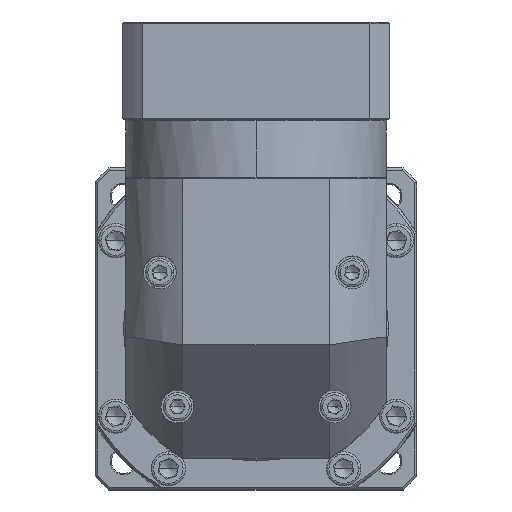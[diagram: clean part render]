
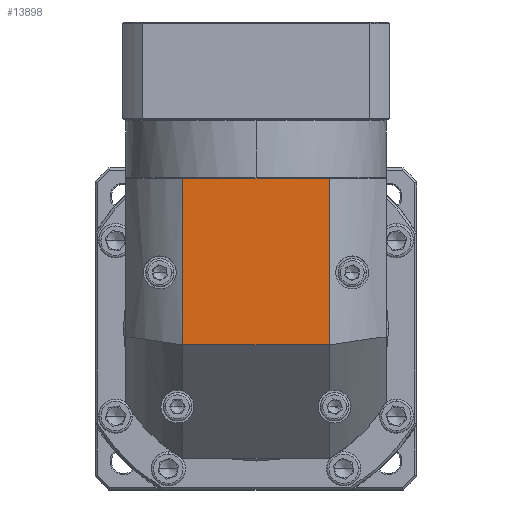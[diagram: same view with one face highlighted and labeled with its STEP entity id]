
A CAD part, top view. The second image highlights one B-rep face of the part: STEP entity #13898.
In plain terms, the highlighted planar face has unit normal (0, 0, 1).
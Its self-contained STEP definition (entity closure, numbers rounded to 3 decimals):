
#2258 = CARTESIAN_POINT ( 'NONE',  ( -172.777, 137.457, 44.397 ) ) ;
#2538 = CARTESIAN_POINT ( 'NONE',  ( -107.977, 14.057, 44.397 ) ) ;
#4253 = ORIENTED_EDGE ( 'NONE', *, *, #90603, .F. ) ;
#7494 = DIRECTION ( 'NONE',  ( -1., 0., 0. ) ) ;
#13898 = ADVANCED_FACE ( 'NONE', ( #18782 ), #24021, .F. ) ;
#17771 = VERTEX_POINT ( 'NONE', #83333 ) ;
#18782 = FACE_OUTER_BOUND ( 'NONE', #137692, .T. ) ;
#19089 = LINE ( 'NONE', #50624, #37771 ) ;
#22647 = VERTEX_POINT ( 'NONE', #35319 ) ;
#24021 = PLANE ( 'NONE',  #53450 ) ;
#25705 = CARTESIAN_POINT ( 'NONE',  ( -197.877, 137.457, 44.397 ) ) ;
#26663 = VECTOR ( 'NONE', #79760, 1000. ) ;
#35319 = CARTESIAN_POINT ( 'NONE',  ( -107.977, 137.457, 44.397 ) ) ;
#35444 = DIRECTION ( 'NONE',  ( 0., 0., -1. ) ) ;
#35740 = DIRECTION ( 'NONE',  ( 0., -1., 0. ) ) ;
#37771 = VECTOR ( 'NONE', #7494, 1000. ) ;
#38708 = EDGE_CURVE ( 'NONE', #99897, #22647, #131849, .T. ) ;
#41820 = DIRECTION ( 'NONE',  ( 0., 1., 0. ) ) ;
#45000 = ORIENTED_EDGE ( 'NONE', *, *, #57719, .F. ) ;
#50624 = CARTESIAN_POINT ( 'NONE',  ( -197.877, 64.057, 44.397 ) ) ;
#53450 = AXIS2_PLACEMENT_3D ( 'NONE', #99843, #35444, #130738 ) ;
#54611 = ORIENTED_EDGE ( 'NONE', *, *, #38708, .F. ) ;
#57719 = EDGE_CURVE ( 'NONE', #22647, #129113, #73058, .T. ) ;
#73058 = LINE ( 'NONE', #2538, #103611 ) ;
#79760 = DIRECTION ( 'NONE',  ( 1., 0., 0. ) ) ;
#81824 = ORIENTED_EDGE ( 'NONE', *, *, #99330, .F. ) ;
#83333 = CARTESIAN_POINT ( 'NONE',  ( -172.777, 64.057, 44.397 ) ) ;
#84884 = CARTESIAN_POINT ( 'NONE',  ( -172.777, 14.057, 44.397 ) ) ;
#90603 = EDGE_CURVE ( 'NONE', #129113, #17771, #19089, .T. ) ;
#99330 = EDGE_CURVE ( 'NONE', #17771, #99897, #99864, .T. ) ;
#99843 = CARTESIAN_POINT ( 'NONE',  ( -140.377, 71.557, 44.397 ) ) ;
#99864 = LINE ( 'NONE', #84884, #126970 ) ;
#99897 = VERTEX_POINT ( 'NONE', #2258 ) ;
#103521 = CARTESIAN_POINT ( 'NONE',  ( -107.977, 64.057, 44.397 ) ) ;
#103611 = VECTOR ( 'NONE', #35740, 1000. ) ;
#126970 = VECTOR ( 'NONE', #41820, 1000. ) ;
#129113 = VERTEX_POINT ( 'NONE', #103521 ) ;
#130738 = DIRECTION ( 'NONE',  ( 1., 0., 0. ) ) ;
#131849 = LINE ( 'NONE', #25705, #26663 ) ;
#137692 = EDGE_LOOP ( 'NONE', ( #81824, #4253, #45000, #54611 ) ) ;
